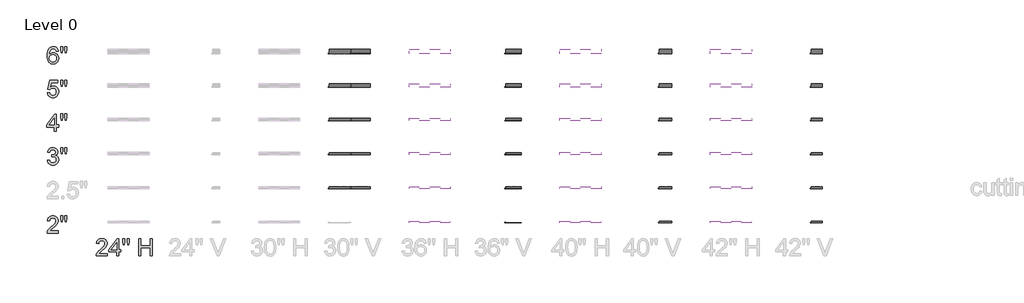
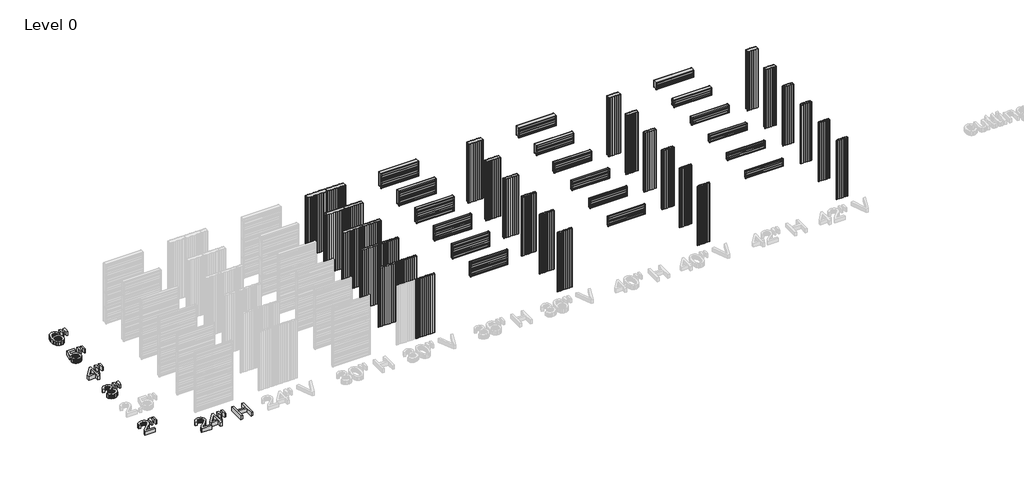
# One storey, part 2 of 5: 47 plates, 6 proxies.
"""IFC4 building model written with IfcOpenShell, lengths in millimetres."""

from ifc_helpers import new_model, si_unit, origin, origin_with_axes, place, context, project, spatial, polyline, outline, extrude, transform, mapped, element, save
from components import plate_de2fd6df, plate_e37267dc, plate_15712d7d, plate_4793d3af, plate_c5a37403, plate_57a42e4e, plate_0df7702d, plate_820d1cbb, plate_888f3173, plate_297fe0cb, plate_e7929396, plate_79ad022d, plate_239a66b7, plate_ced8370a, plate_4faf0529, plate_6111810e, plate_0e54a912, plate_5278eb09, plate_b1e30be2, plate_cf051cfc, plate_d5faf714, plate_00549aa1, plate_9e625256, plate_cb23bb6f, plate_c58314a5, plate_e7a07bd1, plate_d4053d72, plate_10c0e79f, plate_a5bf1575, plate_cdc928b4, plate_f7949c93, plate_2f6834ce, plate_00e9bba4, plate_165f95fd, plate_bf982a10, plate_b7fd3eda, plate_1283bab2, plate_a97a2569, plate_50034a83, plate_c56739d3, plate_0ff2a340, plate_49fefc4a, plate_28674070, plate_0aca0093, plate_5ca264da, plate_6d36e98c, plate_5aba35be, plate_f4e58c54, plate_e4049453, plate_e126f2b7, plate_ce7ed1db, plate_dabc4b1d, plate_28d0dd15, plate_f4efb7f9, plate_2dc741f4, plate_715b7b63, plate_04e56d12, plate_7e46fe94, plate_1a11cdb8

model = new_model("IFC4")

# Units and contexts
model_context = context("Model", 3, world=origin())
ifc_project = project(units=[si_unit("LENGTHUNIT", "METRE", prefix="MILLI")], contexts=[model_context])

# Site, building, storey
site = spatial("IfcSite", under=ifc_project)
building = spatial("IfcBuilding", under=site)
storey = spatial("IfcBuildingStorey", under=building, Name="Level 0", Elevation=0.0)

# Proxies
placement = place(None, origin())
element("IfcBuildingElementProxy", 1, Name="24\" Arial", ObjectType="24\" Arial", at=placement, inside=storey, context=model_context, shape_type="SweptSolid", body=[
    extrude(outline(polyline([(-32267.664642, 8108.881133), (-32267.664642, 8032.7393595), (-32667.408953, 8032.7393595), (-32665.735916, 8059.5451304), (-32659.2296609, 8085.2355432), (-32640.4544677, 8126.2621287), (-32612.9794821, 8166.0618204), (-32573.2355583, 8207.720442), (-32517.6535508, 8254.3238176), (-32435.488844, 8327.3054101), (-32386.1900199, 8381.177202), (-32371.8111963, 8403.1869334), (-32361.5406079, 8424.899236), (-32355.3782549, 8446.3141098), (-32353.3241372, 8467.4315548), (-32355.2620718, 8487.2988694), (-32361.0758754, 8505.5582095), (-32370.7655481, 8522.2095751), (-32384.3310899, 8537.2529662), (-32401.0196342, 8549.7124447), (-32420.0783142, 8558.6120722), (-32441.5071299, 8563.9518486), (-32465.3060815, 8565.7317741), (-32490.3784001, 8563.9936746), (-32512.8017434, 8558.7793759), (-32532.5761115, 8550.088878), (-32549.7015043, 8537.9221811), (-32563.5551802, 8522.6882496), (-32573.5143978, 8504.7960481), (-32579.579157, 8484.2455768), (-32581.7494578, 8461.0368355), (-32657.8912313, 8470.5545572), (-32651.3431503, 8509.8616324), (-32639.4320562, 8544.2053645), (-32622.157949, 8573.5857534), (-32599.5208288, 8598.0027992), (-32572.0411958, 8617.1962517), (-32540.2395505, 8630.9058605), (-32504.1158929, 8639.1316259), (-32463.6702231, 8641.8735476), (-32422.8620619, 8638.8249024), (-32386.5432167, 8629.6789667), (-32354.7136874, 8614.4357406), (-32327.3734742, 8593.095224), (-32305.4148634, 8567.2375074), (-32289.7301413, 8538.4426815), (-32280.3193081, 8506.7107461), (-32277.1823637, 8472.0417012), (-32280.5656164, 8435.6252622), (-32290.7153742, 8399.8408594), (-32308.7284061, 8363.4430096), (-32335.7014807, 8325.1862299), (-32378.698532, 8279.5123193), (-32444.7834941, 8220.8630773), (-32532.3762765, 8147.6212346), (-32566.7293032, 8108.881133), (-32267.664642, 8108.881133)])), origin_with_axes(), (0.0, 0.0, 1.0), 152.4),
    extrude(outline(polyline([(-32172.9335683, 8422.9659488), (-32191.5228685, 8540.5990403), (-32191.5228685, 8641.8735476), (-32115.381095, 8641.8735476), (-32115.381095, 8540.5990403), (-32132.037108, 8422.9659488), (-32172.9335683, 8422.9659488)])), origin_with_axes(), (0.0, 0.0, 1.0), 152.4),
    extrude(outline(polyline([(-32021.0961645, 8422.9659488), (-32039.2393215, 8540.5990403), (-32039.2393215, 8641.8735476), (-31963.097548, 8641.8735476), (-31963.097548, 8540.5990403), (-31980.9432761, 8422.9659488), (-32021.0961645, 8422.9659488)])), origin_with_axes(), (0.0, 0.0, 1.0), 152.4),
])
element("IfcBuildingElementProxy", 2, Name="24\" Arial", ObjectType="24\" Arial", at=placement, inside=storey, context=model_context, shape_type="SweptSolid", body=[
    extrude(outline(polyline([(-32657.8912313, 10607.5406282), (-32581.7494578, 10617.0583499), (-32564.7030695, 10569.2094913), (-32553.2102347, 10551.1128075), (-32539.7376394, 10536.9012876), (-32523.9785602, 10526.1659667), (-32505.6262736, 10518.4978804), (-32484.6807796, 10513.8970286), (-32461.1420783, 10512.3634113), (-32433.5555568, 10514.4732969), (-32408.9433234, 10520.8029536), (-32387.305378, 10531.3523815), (-32368.6417206, 10546.1215804), (-32353.6122714, 10564.0044872), (-32342.8769505, 10583.8950384), (-32336.435758, 10605.793234), (-32334.2886939, 10629.699074), (-32336.4171687, 10652.4663194), (-32342.8025933, 10673.1794471), (-32353.4449677, 10691.8384572), (-32368.3442918, 10708.4433496), (-32386.5246274, 10722.0739539), (-32407.0100361, 10731.8100999), (-32429.8005182, 10737.6517875), (-32454.8960734, 10739.5990167), (-32478.9506278, 10737.517015), (-32508.2845435, 10731.2710102), (-32499.8078226, 10807.4127837), (-32487.6132417, 10806.5204973), (-32441.9950991, 10811.9857515), (-32401.2101745, 10828.3815143), (-32384.4240364, 10840.7805775), (-32372.4339378, 10856.1167502), (-32365.2398787, 10874.3900322), (-32362.8418589, 10895.6004237), (-32364.5799585, 10912.818763), (-32369.7942572, 10928.4848957), (-32378.484755, 10942.5988219), (-32390.651452, 10955.1605415), (-32405.5600707, 10965.4729558), (-32422.4763339, 10972.838966), (-32441.4002415, 10977.2585721), (-32462.3317935, 10978.7317741), (-32483.2075776, 10977.2446301), (-32502.2616102, 10972.7831981), (-32519.4938915, 10965.347478), (-32534.9044213, 10954.9374699), (-32548.1121191, 10941.5531738), (-32558.7359042, 10925.1945896), (-32566.7757765, 10905.8617174), (-32572.2317361, 10883.5545572), (-32648.3735096, 10893.0722789), (-32639.3484044, 10929.4236554), (-32625.9548136, 10961.443725), (-32608.1927373, 10989.1324876), (-32586.0621754, 11012.4899432), (-32560.2602268, 11031.0327702), (-32531.4839901, 11044.2776465), (-32499.7334654, 11052.2245724), (-32465.0086527, 11054.8735476), (-32417.1412047, 11049.6499543), (-32373.1775098, 11033.9791742), (-32336.1104453, 11009.255405), (-32308.9328884, 10976.8728441), (-32292.2582862, 10939.5641186), (-32286.7000854, 10900.0618558), (-32291.9794467, 10863.2550414), (-32307.8175304, 10829.8686583), (-32333.9912651, 10801.427029), (-32370.277579, 10779.4544762), (-32344.9031843, 10771.5168451), (-32322.6146134, 10760.1959613), (-32303.4118663, 10745.4918248), (-32287.294943, 10727.4044358), (-32274.5426831, 10706.3799373), (-32265.433926, 10682.8644725), (-32259.9686718, 10656.8580416), (-32258.1469203, 10628.3606444), (-32261.7904232, 10589.7320787), (-32272.7209317, 10554.1521581), (-32290.9384459, 10521.6208828), (-32316.4429657, 10492.1382527), (-32347.5149809, 10467.6747337), (-32382.4349813, 10450.2007915), (-32421.2029668, 10439.7164262), (-32463.8189375, 10436.2216378), (-32502.3359674, 10439.2052205), (-32537.4325662, 10448.1559685), (-32569.1087337, 10463.0738819), (-32597.3644699, 10483.9589607), (-32621.056533, 10509.5843109), (-32639.0416809, 10538.723039), (-32651.3199137, 10571.3751447), (-32657.8912313, 10607.5406282)])), origin_with_axes(), (0.0, 0.0, 1.0), 152.4),
    extrude(outline(polyline([(-32172.9335683, 10835.9659488), (-32191.5228685, 10953.5990403), (-32191.5228685, 11054.8735476), (-32115.381095, 11054.8735476), (-32115.381095, 10953.5990403), (-32132.037108, 10835.9659488), (-32172.9335683, 10835.9659488)])), origin_with_axes(), (0.0, 0.0, 1.0), 152.4),
    extrude(outline(polyline([(-32021.0961645, 10835.9659488), (-32039.2393215, 10953.5990403), (-32039.2393215, 11054.8735476), (-31963.097548, 11054.8735476), (-31963.097548, 10953.5990403), (-31980.9432761, 10835.9659488), (-32021.0961645, 10835.9659488)])), origin_with_axes(), (0.0, 0.0, 1.0), 152.4),
])
element("IfcBuildingElementProxy", 3, Name="24\" Arial", ObjectType="24\" Arial", at=placement, inside=storey, context=model_context, shape_type="SweptSolid", body=[
    extrude(outline(polyline([(-32410.4304674, 11639.5393595), (-32410.4304674, 11782.3051848), (-32686.4443964, 11782.3051848), (-32686.4443964, 11858.4469584), (-32391.395024, 12239.1558259), (-32334.2886939, 12239.1558259), (-32334.2886939, 11858.4469584), (-32258.1469203, 11858.4469584), (-32258.1469203, 11782.3051848), (-32334.2886939, 11782.3051848), (-32334.2886939, 11639.5393595), (-32410.4304674, 11639.5393595)]), holes=[polyline([(-32410.4304674, 11858.4469584), (-32410.4304674, 12093.7131414), (-32592.7543235, 11858.4469584), (-32410.4304674, 11858.4469584)])]), origin_with_axes(), (0.0, 0.0, 1.0), 152.4),
    extrude(outline(polyline([(-32172.9335683, 12029.7659488), (-32191.5228685, 12147.3990403), (-32191.5228685, 12248.6735476), (-32115.381095, 12248.6735476), (-32115.381095, 12147.3990403), (-32132.037108, 12029.7659488), (-32172.9335683, 12029.7659488)])), origin_with_axes(), (0.0, 0.0, 1.0), 152.4),
    extrude(outline(polyline([(-32021.0961645, 12029.7659488), (-32039.2393215, 12147.3990403), (-32039.2393215, 12248.6735476), (-31963.097548, 12248.6735476), (-31963.097548, 12147.3990403), (-31980.9432761, 12029.7659488), (-32021.0961645, 12029.7659488)])), origin_with_axes(), (0.0, 0.0, 1.0), 152.4),
])
element("IfcBuildingElementProxy", 4, Name="24\" Arial", ObjectType="24\" Arial", at=placement, inside=storey, context=model_context, shape_type="SweptSolid", body=[
    extrude(outline(polyline([(-30531.9205653, 7302.1451481), (-30531.9205653, 7226.0033745), (-30931.6648763, 7226.0033745), (-30929.9918393, 7252.8091454), (-30923.4855842, 7278.4995582), (-30904.710391, 7319.5261437), (-30877.2354054, 7359.3258354), (-30837.4914816, 7400.9844571), (-30781.9094741, 7447.5878326), (-30699.7447673, 7520.5694251), (-30650.4459432, 7574.441217), (-30636.0671195, 7596.4509484), (-30625.7965312, 7618.163251), (-30619.6341782, 7639.5781248), (-30617.5800605, 7660.6955698), (-30619.5179951, 7680.5628844), (-30625.3317987, 7698.8222245), (-30635.0214714, 7715.4735901), (-30648.5870132, 7730.5169813), (-30665.2755574, 7742.9764597), (-30684.3342374, 7751.8760872), (-30705.7630532, 7757.2158637), (-30729.5620048, 7758.9957892), (-30754.6343234, 7757.2576896), (-30777.0576667, 7752.0433909), (-30796.8320348, 7743.3528931), (-30813.9574276, 7731.1861961), (-30827.8111035, 7715.9522646), (-30837.7703211, 7698.0600632), (-30843.8350803, 7677.5095918), (-30846.0053811, 7654.3008506), (-30922.1471546, 7663.8185723), (-30915.5990736, 7703.1256475), (-30903.6879795, 7737.4693796), (-30886.4138723, 7766.8497685), (-30863.776752, 7791.2668143), (-30836.297119, 7810.4602667), (-30804.4954738, 7824.1698756), (-30768.3718162, 7832.3956409), (-30727.9261464, 7835.1375627), (-30687.1179851, 7832.0889174), (-30650.7991399, 7822.9429818), (-30618.9696107, 7807.6997556), (-30591.6293975, 7786.359239), (-30569.6707866, 7760.5015225), (-30553.9860646, 7731.7066965), (-30544.5752314, 7699.9747611), (-30541.438287, 7665.3057163), (-30544.8215396, 7628.8892772), (-30554.9712975, 7593.1048744), (-30572.9843294, 7556.7070247), (-30599.9574039, 7518.4502449), (-30642.9544553, 7472.7763344), (-30709.0394174, 7414.1270923), (-30796.6321998, 7340.8852496), (-30830.9852265, 7302.1451481), (-30531.9205653, 7302.1451481)])), origin_with_axes(), (0.0, 0.0, 1.0), 152.4),
    extrude(outline(polyline([(-30208.3180279, 7226.0033745), (-30208.3180279, 7368.7691999), (-30484.3319569, 7368.7691999), (-30484.3319569, 7444.9109734), (-30189.2825845, 7825.619841), (-30132.1762543, 7825.619841), (-30132.1762543, 7444.9109734), (-30056.0344808, 7444.9109734), (-30056.0344808, 7368.7691999), (-30132.1762543, 7368.7691999), (-30132.1762543, 7226.0033745), (-30208.3180279, 7226.0033745)]), holes=[polyline([(-30208.3180279, 7444.9109734), (-30208.3180279, 7680.1771564), (-30390.641884, 7444.9109734), (-30208.3180279, 7444.9109734)])]), origin_with_axes(), (0.0, 0.0, 1.0), 152.4),
    extrude(outline(polyline([(-29970.8211288, 7616.2299638), (-29989.410429, 7733.8630553), (-29989.410429, 7835.1375627), (-29913.2686555, 7835.1375627), (-29913.2686555, 7733.8630553), (-29929.9246684, 7616.2299638), (-29970.8211288, 7616.2299638)])), origin_with_axes(), (0.0, 0.0, 1.0), 152.4),
    extrude(outline(polyline([(-29818.983725, 7616.2299638), (-29837.126882, 7733.8630553), (-29837.126882, 7835.1375627), (-29760.9851084, 7835.1375627), (-29760.9851084, 7733.8630553), (-29778.8308366, 7616.2299638), (-29818.983725, 7616.2299638)])), origin_with_axes(), (0.0, 0.0, 1.0), 152.4),
    extrude(outline(polyline([(-29418.3471276, 7226.0033745), (-29418.3471276, 7835.1375627), (-29342.2053541, 7835.1375627), (-29342.2053541, 7587.6767987), (-29018.6028167, 7587.6767987), (-29018.6028167, 7835.1375627), (-28942.4610431, 7835.1375627), (-28942.4610431, 7226.0033745), (-29018.6028167, 7226.0033745), (-29018.6028167, 7511.5350252), (-29342.2053541, 7511.5350252), (-29342.2053541, 7226.0033745), (-29418.3471276, 7226.0033745)])), origin_with_axes(), (0.0, 0.0, 1.0), 152.4),
])
element("IfcBuildingElementProxy", 5, Name="24\" Arial", ObjectType="24\" Arial", at=placement, inside=storey, context=model_context, shape_type="SweptSolid", body=[
    extrude(outline(polyline([(-32657.8912313, 12996.1406282), (-32581.7494578, 13005.6583499), (-32576.0611319, 12981.1808889), (-32567.7703041, 12959.9472608), (-32556.8769742, 12941.9574655), (-32543.3811422, 12927.2115032), (-32527.3106922, 12915.727963), (-32508.6935081, 12907.5254343), (-32487.5295899, 12902.6039171), (-32463.8189375, 12900.9634113), (-32434.8196292, 12903.2452479), (-32409.2407522, 12910.0907577), (-32387.0823064, 12921.4999407), (-32368.3442918, 12937.4727969), (-32353.4449677, 12957.219281), (-32342.8025933, 12979.9493478), (-32336.4171687, 13005.6629972), (-32334.2886939, 13034.3602294), (-32336.2823963, 13061.4820183), (-32342.2635036, 13085.5923407), (-32352.2320159, 13106.6911964), (-32366.187933, 13124.7785854), (-32384.1777282, 13139.2875342), (-32406.2478748, 13149.6510691), (-32432.3983729, 13155.86919), (-32462.6292223, 13157.9418969), (-32499.5661617, 13154.6330015), (-32529.4763457, 13144.7063152), (-32553.3635964, 13129.5002677), (-32572.2317361, 13110.3532885), (-32648.3735096, 13119.8710102), (-32581.7494578, 13433.9558259), (-32286.7000854, 13433.9558259), (-32286.7000854, 13357.8140524), (-32520.1816956, 13357.8140524), (-32552.7501495, 13190.0642076), (-32525.8793161, 13209.3227226), (-32498.3578572, 13223.0788048), (-32470.1857728, 13231.332454), (-32441.3630629, 13234.0836705), (-32404.2820563, 13230.6725339), (-32370.2218111, 13220.4391241), (-32339.1823271, 13203.3834412), (-32311.1636044, 13179.5054851), (-32287.9688051, 13150.264516), (-32271.4010914, 13117.1197938), (-32261.4604631, 13080.0713185), (-32258.1469203, 13039.1190902), (-32261.130503, 12999.6725953), (-32270.0812511, 12962.9773167), (-32284.9991644, 12929.0332546), (-32305.8842432, 12897.8404089), (-32337.5232321, 12865.8946965), (-32374.4415822, 12843.0763306), (-32416.6392936, 12829.385311), (-32464.1163663, 12824.8216378), (-32503.4094995, 12827.7540999), (-32538.9011209, 12836.5514862), (-32570.5912304, 12851.2137967), (-32598.4798279, 12871.7410315), (-32621.6839219, 12897.1107789), (-32639.3205204, 12926.3006275), (-32651.3896236, 12959.3105772), (-32657.8912313, 12996.1406282)])), origin_with_axes(), (0.0, 0.0, 1.0), 152.4),
    extrude(outline(polyline([(-32172.9335683, 13224.5659488), (-32191.5228685, 13342.1990403), (-32191.5228685, 13443.4735476), (-32115.381095, 13443.4735476), (-32115.381095, 13342.1990403), (-32132.037108, 13224.5659488), (-32172.9335683, 13224.5659488)])), origin_with_axes(), (0.0, 0.0, 1.0), 152.4),
    extrude(outline(polyline([(-32021.0961645, 13224.5659488), (-32039.2393215, 13342.1990403), (-32039.2393215, 13443.4735476), (-31963.097548, 13443.4735476), (-31963.097548, 13342.1990403), (-31980.9432761, 13224.5659488), (-32021.0961645, 13224.5659488)])), origin_with_axes(), (0.0, 0.0, 1.0), 152.4),
])
element("IfcBuildingElementProxy", 6, Name="24\" Arial", ObjectType="24\" Arial", at=placement, inside=storey, context=model_context, shape_type="SweptSolid", body=[
    extrude(outline(polyline([(-32267.664642, 14473.0707053), (-32343.8064155, 14463.5529837), (-32356.0753537, 14501.289263), (-32372.6570094, 14527.0540331), (-32389.0248882, 14540.9123563), (-32407.1959291, 14550.8111587), (-32427.1701322, 14556.7504401), (-32448.9474973, 14558.7302005), (-32484.3415249, 14554.1200541), (-32517.6535508, 14540.2896148), (-32546.2624838, 14511.1601814), (-32569.6292341, 14471.0630609), (-32578.7612278, 14445.4888312), (-32585.4115499, 14414.3471061), (-32591.2671795, 14335.3611696), (-32560.7249593, 14370.9968581), (-32524.1226272, 14396.1110026), (-32483.5050064, 14411.0010321), (-32440.9169197, 14415.9643752), (-32404.3331769, 14412.5718279), (-32370.5750078, 14402.3941861), (-32339.6424123, 14385.4314497), (-32311.5353904, 14361.6836187), (-32288.1779348, 14332.56348), (-32271.4940379, 14299.4838203), (-32261.4836997, 14262.4446397), (-32258.1469203, 14221.4459382), (-32259.7177162, 14193.6874657), (-32264.4301038, 14166.9235208), (-32272.2840831, 14141.1541034), (-32283.2796542, 14116.3792136), (-32297.0264417, 14093.523669), (-32313.1340703, 14073.5122874), (-32331.60254, 14056.3450687), (-32352.4318508, 14042.0220129), (-32375.1758596, 14030.7336604), (-32399.3884231, 14022.6705514), (-32425.0695413, 14017.832686), (-32452.2192142, 14016.2200642), (-32497.6096379, 14020.4956033), (-32538.6036921, 14033.3222204), (-32575.2013768, 14054.6999156), (-32607.402692, 14084.6286889), (-32633.6554312, 14124.3726127), (-32652.4073878, 14175.1957593), (-32663.6585617, 14237.0981289), (-32667.408953, 14310.0797214), (-32663.2449498, 14391.9005261), (-32650.75294, 14461.7312322), (-32629.9329238, 14519.5718397), (-32616.3999133, 14543.9958565), (-32600.7849012, 14565.4223486), (-32569.1923855, 14595.8065597), (-32532.5621695, 14617.5095677), (-32490.8942532, 14630.5313725), (-32444.1886365, 14634.8719741), (-32409.1199217, 14632.1858202), (-32377.3786917, 14624.1273586), (-32348.9649463, 14610.6965892), (-32323.8786858, 14591.8935121), (-32302.7984194, 14568.3501634), (-32286.4026566, 14540.6985794), (-32274.6913975, 14508.93876), (-32267.664642, 14473.0707053)]), holes=[polyline([(-32591.2671795, 14222.6356534), (-32586.8615153, 14188.8960736), (-32573.6445229, 14156.6808164), (-32553.1219355, 14128.9827591), (-32526.7994865, 14108.7947791), (-32495.0303725, 14096.4700731), (-32458.1677902, 14092.3618378), (-32431.7012741, 14094.4903126), (-32407.9209119, 14100.8757372), (-32386.8267035, 14111.5181116), (-32368.418649, 14126.4174357), (-32353.4867936, 14144.9695573), (-32342.8211826, 14166.5703241), (-32336.4218161, 14191.2197361), (-32334.2886939, 14218.9177933), (-32336.3939321, 14245.5330239), (-32342.7096468, 14269.1646717), (-32353.2358381, 14289.8127369), (-32367.9725058, 14307.4772194), (-32386.4363282, 14321.6283241), (-32408.1439835, 14331.7362561), (-32433.0954716, 14337.8010153), (-32461.2907927, 14339.8226017), (-32487.4041121, 14337.8010153), (-32511.4633138, 14331.7362561), (-32533.4683979, 14321.6283241), (-32553.4193643, 14307.4772194), (-32569.9777835, 14290.0451031), (-32581.8052257, 14270.0941367), (-32588.901691, 14247.6243201), (-32591.2671795, 14222.6356534)])]), origin_with_axes(), (0.0, 0.0, 1.0), 152.4),
    extrude(outline(polyline([(-32172.9335683, 14415.9643752), (-32191.5228685, 14533.5974667), (-32191.5228685, 14634.8719741), (-32115.381095, 14634.8719741), (-32115.381095, 14533.5974667), (-32132.037108, 14415.9643752), (-32172.9335683, 14415.9643752)])), origin_with_axes(), (0.0, 0.0, 1.0), 152.4),
    extrude(outline(polyline([(-32021.0961645, 14415.9643752), (-32039.2393215, 14533.5974667), (-32039.2393215, 14634.8719741), (-31963.097548, 14634.8719741), (-31963.097548, 14533.5974667), (-31980.9432761, 14415.9643752), (-32021.0961645, 14415.9643752)])), origin_with_axes(), (0.0, 0.0, 1.0), 152.4),
])

# Plates
plate_shape = plate_de2fd6df(model_context)
element("IfcPlate", 7, ObjectType="KIP-42-Karrier-KP-R19-CP-Hz-SL3-8in_SL : Hz 2\"", at=placement, inside=storey, context=model_context, shape_type="MappedRepresentation", body=[
    mapped(plate_shape, transform((-8448.7250935, 8444.8222907, 2133.6), x_axis=(1.0, 0.0, 0.0), y_axis=(0.0, 1.0, 0.0), z_axis=(0.0, 0.0, 1.0))),
])
plate_2_shape = plate_e37267dc(model_context)
element("IfcPlate", 8, ObjectType="KIP-40-Karrier-KP-R19-CP-Hz-SL3-8in_SL : Hz 2\"", at=placement, inside=storey, context=model_context, shape_type="MappedRepresentation", body=[
    mapped(plate_2_shape, transform((-13782.7250935, 8444.8222907, 2032.0), x_axis=(1.0, 0.0, 0.0), y_axis=(0.0, 1.0, 0.0), z_axis=(0.0, 0.0, 1.0))),
])
plate_3_shape = plate_15712d7d(model_context)
element("IfcPlate", 9, ObjectType="KIP-36-Karrier-KP-R19-CP-Hz-SL3-8in_SL : Hz 2\"", at=placement, inside=storey, context=model_context, shape_type="MappedRepresentation", body=[
    mapped(plate_3_shape, transform((-19116.7250935, 8444.8222907, 1828.8), x_axis=(1.0, 0.0, 0.0), y_axis=(0.0, 1.0, 0.0), z_axis=(0.0, 0.0, 1.0))),
])
plate_4_shape = plate_4793d3af(model_context)
element("IfcPlate", 10, ObjectType="KIP-42-Karrier-KP-R19-CP-Hz-SL3-8in_SL : Hz 2.5\"", at=placement, inside=storey, context=model_context, shape_type="MappedRepresentation", body=[
    mapped(plate_4_shape, transform((-8448.7250935, 9664.0222907, 2133.6), x_axis=(1.0, 0.0, 0.0), y_axis=(0.0, 1.0, 0.0), z_axis=(0.0, 0.0, 1.0))),
])
plate_5_shape = plate_c5a37403(model_context)
element("IfcPlate", 11, ObjectType="KIP-40-Karrier-KP-R19-CP-Hz-SL3-8in_SL : Hz 2.5\"", at=placement, inside=storey, context=model_context, shape_type="MappedRepresentation", body=[
    mapped(plate_5_shape, transform((-13782.7250935, 9664.0222907, 2032.0), x_axis=(1.0, 0.0, 0.0), y_axis=(0.0, 1.0, 0.0), z_axis=(0.0, 0.0, 1.0))),
])
plate_6_shape = plate_57a42e4e(model_context)
element("IfcPlate", 12, ObjectType="KIP-36-Karrier-KP-R19-CP-Hz-SL3-8in_SL : Hz 2.5\"", at=placement, inside=storey, context=model_context, shape_type="MappedRepresentation", body=[
    mapped(plate_6_shape, transform((-19116.7250935, 9664.0222907, 1828.8), x_axis=(1.0, 0.0, 0.0), y_axis=(0.0, 1.0, 0.0), z_axis=(0.0, 0.0, 1.0))),
])
plate_7_shape = plate_0df7702d(model_context)
element("IfcPlate", 13, ObjectType="KIP-42-Karrier-KP-R19-CP-Hz-SL3-8in_SL : Hz 3\"", at=placement, inside=storey, context=model_context, shape_type="MappedRepresentation", body=[
    mapped(plate_7_shape, transform((-8448.7250935, 10883.2222907, 2133.6), x_axis=(1.0, 0.0, 0.0), y_axis=(0.0, 1.0, 0.0), z_axis=(0.0, 0.0, 1.0))),
])
plate_8_shape = plate_820d1cbb(model_context)
element("IfcPlate", 14, ObjectType="KIP-40-Karrier-KP-R19-CP-Hz-SL3-8in_SL : Hz 3\"", at=placement, inside=storey, context=model_context, shape_type="MappedRepresentation", body=[
    mapped(plate_8_shape, transform((-13782.7250935, 10883.2222907, 2032.0), x_axis=(1.0, 0.0, 0.0), y_axis=(0.0, 1.0, 0.0), z_axis=(0.0, 0.0, 1.0))),
])
plate_9_shape = plate_888f3173(model_context)
element("IfcPlate", 15, ObjectType="KIP-36-Karrier-KP-R19-CP-Hz-SL3-8in_SL : Hz 3\"", at=placement, inside=storey, context=model_context, shape_type="MappedRepresentation", body=[
    mapped(plate_9_shape, transform((-19116.7250935, 10883.2222907, 1828.8), x_axis=(1.0, 0.0, 0.0), y_axis=(0.0, 1.0, 0.0), z_axis=(0.0, 0.0, 1.0))),
])
plate_10_shape = plate_297fe0cb(model_context)
element("IfcPlate", 16, ObjectType="KIP-42-Karrier-KP-R19-CP-Hz-SL3-8in_SL : Hz 4\"", at=placement, inside=storey, context=model_context, shape_type="MappedRepresentation", body=[
    mapped(plate_10_shape, transform((-8448.7250935, 12102.4222907, 2133.6), x_axis=(1.0, 0.0, 0.0), y_axis=(0.0, 1.0, 0.0), z_axis=(0.0, 0.0, 1.0))),
])
plate_11_shape = plate_e7929396(model_context)
element("IfcPlate", 17, ObjectType="KIP-40-Karrier-KP-R19-CP-Hz-SL3-8in_SL : Hz 4\"", at=placement, inside=storey, context=model_context, shape_type="MappedRepresentation", body=[
    mapped(plate_11_shape, transform((-13782.7250935, 12102.4222907, 2032.0), x_axis=(1.0, 0.0, 0.0), y_axis=(0.0, 1.0, 0.0), z_axis=(0.0, 0.0, 1.0))),
])
plate_12_shape = plate_79ad022d(model_context)
element("IfcPlate", 18, ObjectType="KIP-36-Karrier-KP-R19-CP-Hz-SL3-8in_SL : Hz 4\"", at=placement, inside=storey, context=model_context, shape_type="MappedRepresentation", body=[
    mapped(plate_12_shape, transform((-19116.7250935, 12102.4222907, 1828.8), x_axis=(1.0, 0.0, 0.0), y_axis=(0.0, 1.0, 0.0), z_axis=(0.0, 0.0, 1.0))),
])
plate_13_shape = plate_239a66b7(model_context)
element("IfcPlate", 19, ObjectType="KIP-42-Karrier-KP-R19-CP-Hz-SL3-8in_SL : Hz 5\"", at=placement, inside=storey, context=model_context, shape_type="MappedRepresentation", body=[
    mapped(plate_13_shape, transform((-8448.7250935, 13321.6222907, 2133.6), x_axis=(1.0, 0.0, 0.0), y_axis=(0.0, 1.0, 0.0), z_axis=(0.0, 0.0, 1.0))),
])
plate_14_shape = plate_ced8370a(model_context)
element("IfcPlate", 20, ObjectType="KIP-40-Karrier-KP-R19-CP-Hz-SL3-8in_SL : Hz 5\"", at=placement, inside=storey, context=model_context, shape_type="MappedRepresentation", body=[
    mapped(plate_14_shape, transform((-13782.7250935, 13321.6222907, 2032.0), x_axis=(1.0, 0.0, 0.0), y_axis=(0.0, 1.0, 0.0), z_axis=(0.0, 0.0, 1.0))),
])
plate_15_shape = plate_4faf0529(model_context)
element("IfcPlate", 21, ObjectType="KIP-36-Karrier-KP-R19-CP-Hz-SL3-8in_SL : Hz 5\"", at=placement, inside=storey, context=model_context, shape_type="MappedRepresentation", body=[
    mapped(plate_15_shape, transform((-19116.7250935, 13321.6222907, 1828.8), x_axis=(1.0, 0.0, 0.0), y_axis=(0.0, 1.0, 0.0), z_axis=(0.0, 0.0, 1.0))),
])
plate_16_shape = plate_6111810e(model_context)
element("IfcPlate", 22, ObjectType="KIP-42-Karrier-KP-R19-CP-Hz-SL3-8in_SL : Hz 6\"", at=placement, inside=storey, context=model_context, shape_type="MappedRepresentation", body=[
    mapped(plate_16_shape, transform((-8448.7250935, 14539.4207172, 2133.6), x_axis=(1.0, 0.0, 0.0), y_axis=(0.0, 1.0, 0.0), z_axis=(0.0, 0.0, 1.0))),
])
plate_17_shape = plate_0e54a912(model_context)
element("IfcPlate", 23, ObjectType="KIP-40-Karrier-KP-R19-CP-Hz-SL3-8in_SL : Hz 6\"", at=placement, inside=storey, context=model_context, shape_type="MappedRepresentation", body=[
    mapped(plate_17_shape, transform((-13782.7250935, 14539.4207172, 2032.0), x_axis=(1.0, 0.0, 0.0), y_axis=(0.0, 1.0, 0.0), z_axis=(0.0, 0.0, 1.0))),
])
plate_18_shape = plate_5278eb09(model_context)
element("IfcPlate", 24, ObjectType="KIP-36-Karrier-KP-R19-CP-Hz-SL3-8in_SL : Hz 6\"", at=placement, inside=storey, context=model_context, shape_type="MappedRepresentation", body=[
    mapped(plate_18_shape, transform((-19116.7250935, 14539.4207172, 1828.8), x_axis=(1.0, 0.0, 0.0), y_axis=(0.0, 1.0, 0.0), z_axis=(0.0, 0.0, 1.0))),
])
plate_19_shape = plate_b1e30be2(model_context)
element("IfcPlate", 25, ObjectType="KIP-42-Karrier-KP-R19-CP-Vt-SL3-8in_SL : Vt 2\"", at=placement, inside=storey, context=model_context, shape_type="MappedRepresentation", body=[
    mapped(plate_19_shape, transform((-5415.5413834, 8443.4207172, 0.0), x_axis=(1.0, 0.0, 0.0), y_axis=(0.0, 1.0, 0.0), z_axis=(0.0, 0.0, 1.0))),
])
plate_20_shape = plate_cf051cfc(model_context)
element("IfcPlate", 26, ObjectType="KIP-40-Karrier-KP-R19-CP-Vt-SL3-8in_SL : Vt 2\"", at=placement, inside=storey, context=model_context, shape_type="MappedRepresentation", body=[
    mapped(plate_20_shape, transform((-10774.9413834, 8443.4207172, 0.0), x_axis=(1.0, 0.0, 0.0), y_axis=(0.0, 1.0, 0.0), z_axis=(0.0, 0.0, 1.0))),
])
plate_21_shape = plate_d5faf714(model_context)
element("IfcPlate", 27, ObjectType="KIP-36-Karrier-KP-R19-CP-Vt-SL3-8in_SL : Vt 2\"", at=placement, inside=storey, context=model_context, shape_type="MappedRepresentation", body=[
    mapped(plate_21_shape, transform((-16159.7413834, 8443.4207172, 0.0), x_axis=(1.0, 0.0, 0.0), y_axis=(0.0, 1.0, 0.0), z_axis=(0.0, 0.0, 1.0))),
])
plate_22_shape = plate_00549aa1(model_context)
plate_23_shape = plate_9e625256(model_context)
element("IfcPlate", 28, ObjectType="KIP-30-Karrier-KP-R19-CP-Vt-SL_SL : Vt 2\"", at=placement, inside=storey, context=model_context, shape_type="MappedRepresentation", body=[
    mapped(plate_22_shape, transform((-21569.9413834, 8443.4207172, 0.0), x_axis=(1.0, 0.0, 0.0), y_axis=(0.0, 1.0, 0.0), z_axis=(0.0, 0.0, 1.0))),
    mapped(plate_23_shape, transform((-21569.9413834, 8443.4207172, 0.0), x_axis=(1.0, 0.0, 0.0), y_axis=(0.0, 1.0, 0.0), z_axis=(0.0, 0.0, 1.0))),
])
plate_24_shape = plate_cb23bb6f(model_context)
element("IfcPlate", 29, ObjectType="KIP-42-Karrier-KP-R19-CP-Vt-SL3-8in_SL : Vt 2.5\"", at=placement, inside=storey, context=model_context, shape_type="MappedRepresentation", body=[
    mapped(plate_24_shape, transform((-5415.5413834, 9662.6207172, 0.0), x_axis=(1.0, 0.0, 0.0), y_axis=(0.0, 1.0, 0.0), z_axis=(0.0, 0.0, 1.0))),
])
plate_25_shape = plate_c58314a5(model_context)
element("IfcPlate", 30, ObjectType="KIP-40-Karrier-KP-R19-CP-Vt-SL3-8in_SL : Vt 2.5\"", at=placement, inside=storey, context=model_context, shape_type="MappedRepresentation", body=[
    mapped(plate_25_shape, transform((-10774.9413834, 9662.6207172, 0.0), x_axis=(1.0, 0.0, 0.0), y_axis=(0.0, 1.0, 0.0), z_axis=(0.0, 0.0, 1.0))),
])
plate_26_shape = plate_e7a07bd1(model_context)
element("IfcPlate", 31, ObjectType="KIP-36-Karrier-KP-R19-CP-Vt-SL3-8in_SL : Vt 2.5\"", at=placement, inside=storey, context=model_context, shape_type="MappedRepresentation", body=[
    mapped(plate_26_shape, transform((-16159.7413834, 9662.6207172, 0.0), x_axis=(1.0, 0.0, 0.0), y_axis=(0.0, 1.0, 0.0), z_axis=(0.0, 0.0, 1.0))),
])
plate_27_shape = plate_d4053d72(model_context)
plate_28_shape = plate_10c0e79f(model_context)
plate_29_shape = plate_a5bf1575(model_context)
element("IfcPlate", 32, ObjectType="KIP-30-Karrier-KP-R19-CP-Vt-SL_SL : Vt 2.5\"", at=placement, inside=storey, context=model_context, shape_type="MappedRepresentation", body=[
    mapped(plate_27_shape, transform((-22299.9413834, 9662.6207172, 0.0), x_axis=(1.0, 0.0, 0.0), y_axis=(0.0, 1.0, 0.0), z_axis=(0.0, 0.0, 1.0))),
    mapped(plate_28_shape, transform((-22299.9413834, 9662.6207172, 0.0), x_axis=(1.0, 0.0, 0.0), y_axis=(0.0, 1.0, 0.0), z_axis=(0.0, 0.0, 1.0))),
    mapped(plate_29_shape, transform((-22299.9413834, 9662.6207172, 0.0), x_axis=(1.0, 0.0, 0.0), y_axis=(0.0, 1.0, 0.0), z_axis=(0.0, 0.0, 1.0))),
])
plate_30_shape = plate_cdc928b4(model_context)
plate_31_shape = plate_f7949c93(model_context)
element("IfcPlate", 33, ObjectType="KIP-30-Karrier-KP-R19-CP-Vt-SL_SL : Vt 2.5\"", at=placement, inside=storey, context=model_context, shape_type="MappedRepresentation", body=[
    mapped(plate_30_shape, transform((-21569.9413834, 9662.6207172, 0.0), x_axis=(1.0, 0.0, 0.0), y_axis=(0.0, 1.0, 0.0), z_axis=(0.0, 0.0, 1.0))),
    mapped(plate_31_shape, transform((-21569.9413834, 9662.6207172, 0.0), x_axis=(1.0, 0.0, 0.0), y_axis=(0.0, 1.0, 0.0), z_axis=(0.0, 0.0, 1.0))),
])
plate_32_shape = plate_2f6834ce(model_context)
element("IfcPlate", 34, ObjectType="KIP-42-Karrier-KP-R19-CP-Vt-SL3-8in_SL : Vt 3\"", at=placement, inside=storey, context=model_context, shape_type="MappedRepresentation", body=[
    mapped(plate_32_shape, transform((-5415.5413834, 10881.8207172, 0.0), x_axis=(1.0, 0.0, 0.0), y_axis=(0.0, 1.0, 0.0), z_axis=(0.0, 0.0, 1.0))),
])
plate_33_shape = plate_00e9bba4(model_context)
element("IfcPlate", 35, ObjectType="KIP-40-Karrier-KP-R19-CP-Vt-SL3-8in_SL : Vt 3\"", at=placement, inside=storey, context=model_context, shape_type="MappedRepresentation", body=[
    mapped(plate_33_shape, transform((-10774.9413834, 10881.8207172, 0.0), x_axis=(1.0, 0.0, 0.0), y_axis=(0.0, 1.0, 0.0), z_axis=(0.0, 0.0, 1.0))),
])
plate_34_shape = plate_165f95fd(model_context)
element("IfcPlate", 36, ObjectType="KIP-36-Karrier-KP-R19-CP-Vt-SL3-8in_SL : Vt 3\"", at=placement, inside=storey, context=model_context, shape_type="MappedRepresentation", body=[
    mapped(plate_34_shape, transform((-16159.7413834, 10881.8207172, 0.0), x_axis=(1.0, 0.0, 0.0), y_axis=(0.0, 1.0, 0.0), z_axis=(0.0, 0.0, 1.0))),
])
plate_35_shape = plate_bf982a10(model_context)
plate_36_shape = plate_b7fd3eda(model_context)
element("IfcPlate", 37, ObjectType="KIP-30-Karrier-KP-R19-CP-Vt-SL_SL : Vt 3\"", at=placement, inside=storey, context=model_context, shape_type="MappedRepresentation", body=[
    mapped(plate_35_shape, transform((-22299.9413834, 10881.8207172, 0.0), x_axis=(1.0, 0.0, 0.0), y_axis=(0.0, 1.0, 0.0), z_axis=(0.0, 0.0, 1.0))),
    mapped(plate_28_shape, transform((-22299.9413834, 10881.8207172, 0.0), x_axis=(1.0, 0.0, 0.0), y_axis=(0.0, 1.0, 0.0), z_axis=(0.0, 0.0, 1.0))),
    mapped(plate_36_shape, transform((-22299.9413834, 10881.8207172, 0.0), x_axis=(1.0, 0.0, 0.0), y_axis=(0.0, 1.0, 0.0), z_axis=(0.0, 0.0, 1.0))),
])
plate_37_shape = plate_1283bab2(model_context)
plate_38_shape = plate_a97a2569(model_context)
element("IfcPlate", 38, ObjectType="KIP-30-Karrier-KP-R19-CP-Vt-SL_SL : Vt 3\"", at=placement, inside=storey, context=model_context, shape_type="MappedRepresentation", body=[
    mapped(plate_37_shape, transform((-21569.9413834, 10881.8207172, 0.0), x_axis=(1.0, 0.0, 0.0), y_axis=(0.0, 1.0, 0.0), z_axis=(0.0, 0.0, 1.0))),
    mapped(plate_38_shape, transform((-21569.9413834, 10881.8207172, 0.0), x_axis=(1.0, 0.0, 0.0), y_axis=(0.0, 1.0, 0.0), z_axis=(0.0, 0.0, 1.0))),
])
plate_39_shape = plate_50034a83(model_context)
element("IfcPlate", 39, ObjectType="KIP-42-Karrier-KP-R19-CP-Vt-SL3-8in_SL : Vt 4\"", at=placement, inside=storey, context=model_context, shape_type="MappedRepresentation", body=[
    mapped(plate_39_shape, transform((-5415.5413834, 12101.0207172, 0.0), x_axis=(1.0, 0.0, 0.0), y_axis=(0.0, 1.0, 0.0), z_axis=(0.0, 0.0, 1.0))),
])
plate_40_shape = plate_c56739d3(model_context)
element("IfcPlate", 40, ObjectType="KIP-40-Karrier-KP-R19-CP-Vt-SL3-8in_SL : Vt 4\"", at=placement, inside=storey, context=model_context, shape_type="MappedRepresentation", body=[
    mapped(plate_40_shape, transform((-10774.9413834, 12101.0207172, 0.0), x_axis=(1.0, 0.0, 0.0), y_axis=(0.0, 1.0, 0.0), z_axis=(0.0, 0.0, 1.0))),
])
plate_41_shape = plate_0ff2a340(model_context)
element("IfcPlate", 41, ObjectType="KIP-36-Karrier-KP-R19-CP-Vt-SL3-8in_SL : Vt 4\"", at=placement, inside=storey, context=model_context, shape_type="MappedRepresentation", body=[
    mapped(plate_41_shape, transform((-16159.7413834, 12101.0207172, 0.0), x_axis=(1.0, 0.0, 0.0), y_axis=(0.0, 1.0, 0.0), z_axis=(0.0, 0.0, 1.0))),
])
plate_42_shape = plate_49fefc4a(model_context)
plate_43_shape = plate_28674070(model_context)
element("IfcPlate", 42, ObjectType="KIP-30-Karrier-KP-R19-CP-Vt-SL_SL : Vt 4\"", at=placement, inside=storey, context=model_context, shape_type="MappedRepresentation", body=[
    mapped(plate_42_shape, transform((-22299.9413834, 12101.0207172, 0.0), x_axis=(1.0, 0.0, 0.0), y_axis=(0.0, 1.0, 0.0), z_axis=(0.0, 0.0, 1.0))),
    mapped(plate_28_shape, transform((-22299.9413834, 12101.0207172, 0.0), x_axis=(1.0, 0.0, 0.0), y_axis=(0.0, 1.0, 0.0), z_axis=(0.0, 0.0, 1.0))),
    mapped(plate_43_shape, transform((-22299.9413834, 12101.0207172, 0.0), x_axis=(1.0, 0.0, 0.0), y_axis=(0.0, 1.0, 0.0), z_axis=(0.0, 0.0, 1.0))),
])
plate_44_shape = plate_0aca0093(model_context)
plate_45_shape = plate_5ca264da(model_context)
element("IfcPlate", 43, ObjectType="KIP-30-Karrier-KP-R19-CP-Vt-SL_SL : Vt 4\"", at=placement, inside=storey, context=model_context, shape_type="MappedRepresentation", body=[
    mapped(plate_44_shape, transform((-21569.9413834, 12101.0207172, 0.0), x_axis=(1.0, 0.0, 0.0), y_axis=(0.0, 1.0, 0.0), z_axis=(0.0, 0.0, 1.0))),
    mapped(plate_45_shape, transform((-21569.9413834, 12101.0207172, 0.0), x_axis=(1.0, 0.0, 0.0), y_axis=(0.0, 1.0, 0.0), z_axis=(0.0, 0.0, 1.0))),
])
plate_46_shape = plate_6d36e98c(model_context)
element("IfcPlate", 44, ObjectType="KIP-42-Karrier-KP-R19-CP-Vt-SL3-8in_SL : Vt 5\"", at=placement, inside=storey, context=model_context, shape_type="MappedRepresentation", body=[
    mapped(plate_46_shape, transform((-5415.5413834, 13320.2207172, 0.0), x_axis=(1.0, 0.0, 0.0), y_axis=(0.0, 1.0, 0.0), z_axis=(0.0, 0.0, 1.0))),
])
plate_47_shape = plate_5aba35be(model_context)
element("IfcPlate", 45, ObjectType="KIP-40-Karrier-KP-R19-CP-Vt-SL3-8in_SL : Vt 5\"", at=placement, inside=storey, context=model_context, shape_type="MappedRepresentation", body=[
    mapped(plate_47_shape, transform((-10774.9413834, 13320.2207172, 0.0), x_axis=(1.0, 0.0, 0.0), y_axis=(0.0, 1.0, 0.0), z_axis=(0.0, 0.0, 1.0))),
])
plate_48_shape = plate_f4e58c54(model_context)
element("IfcPlate", 46, ObjectType="KIP-36-Karrier-KP-R19-CP-Vt-SL3-8in_SL : Vt 5\"", at=placement, inside=storey, context=model_context, shape_type="MappedRepresentation", body=[
    mapped(plate_48_shape, transform((-16159.7413834, 13320.2207172, 0.0), x_axis=(1.0, 0.0, 0.0), y_axis=(0.0, 1.0, 0.0), z_axis=(0.0, 0.0, 1.0))),
])
plate_49_shape = plate_e4049453(model_context)
plate_50_shape = plate_e126f2b7(model_context)
element("IfcPlate", 47, ObjectType="KIP-30-Karrier-KP-R19-CP-Vt-SL_SL : Vt 5\"", at=placement, inside=storey, context=model_context, shape_type="MappedRepresentation", body=[
    mapped(plate_49_shape, transform((-22299.9413834, 13320.2207172, 0.0), x_axis=(1.0, 0.0, 0.0), y_axis=(0.0, 1.0, 0.0), z_axis=(0.0, 0.0, 1.0))),
    mapped(plate_28_shape, transform((-22299.9413834, 13320.2207172, 0.0), x_axis=(1.0, 0.0, 0.0), y_axis=(0.0, 1.0, 0.0), z_axis=(0.0, 0.0, 1.0))),
    mapped(plate_50_shape, transform((-22299.9413834, 13320.2207172, 0.0), x_axis=(1.0, 0.0, 0.0), y_axis=(0.0, 1.0, 0.0), z_axis=(0.0, 0.0, 1.0))),
])
plate_51_shape = plate_ce7ed1db(model_context)
plate_52_shape = plate_dabc4b1d(model_context)
element("IfcPlate", 48, ObjectType="KIP-30-Karrier-KP-R19-CP-Vt-SL_SL : Vt 5\"", at=placement, inside=storey, context=model_context, shape_type="MappedRepresentation", body=[
    mapped(plate_51_shape, transform((-21569.9413834, 13320.2207172, 0.0), x_axis=(1.0, 0.0, 0.0), y_axis=(0.0, 1.0, 0.0), z_axis=(0.0, 0.0, 1.0))),
    mapped(plate_52_shape, transform((-21569.9413834, 13320.2207172, 0.0), x_axis=(1.0, 0.0, 0.0), y_axis=(0.0, 1.0, 0.0), z_axis=(0.0, 0.0, 1.0))),
])
plate_53_shape = plate_28d0dd15(model_context)
element("IfcPlate", 49, ObjectType="KIP-42-Karrier-KP-R19-CP-Vt-SL3-8in_SL : Vt 6\"", at=placement, inside=storey, context=model_context, shape_type="MappedRepresentation", body=[
    mapped(plate_53_shape, transform((-5415.5413834, 14539.4207172, 0.0), x_axis=(1.0, 0.0, 0.0), y_axis=(0.0, 1.0, 0.0), z_axis=(0.0, 0.0, 1.0))),
])
plate_54_shape = plate_f4efb7f9(model_context)
element("IfcPlate", 50, ObjectType="KIP-40-Karrier-KP-R19-CP-Vt-SL3-8in_SL : Vt 6\"", at=placement, inside=storey, context=model_context, shape_type="MappedRepresentation", body=[
    mapped(plate_54_shape, transform((-10774.9413834, 14539.4207172, 0.0), x_axis=(1.0, 0.0, 0.0), y_axis=(0.0, 1.0, 0.0), z_axis=(0.0, 0.0, 1.0))),
])
plate_55_shape = plate_2dc741f4(model_context)
element("IfcPlate", 51, ObjectType="KIP-36-Karrier-KP-R19-CP-Vt-SL3-8in_SL : Vt 6\"", at=placement, inside=storey, context=model_context, shape_type="MappedRepresentation", body=[
    mapped(plate_55_shape, transform((-16159.7413834, 14539.4207172, 0.0), x_axis=(1.0, 0.0, 0.0), y_axis=(0.0, 1.0, 0.0), z_axis=(0.0, 0.0, 1.0))),
])
plate_56_shape = plate_715b7b63(model_context)
plate_57_shape = plate_04e56d12(model_context)
element("IfcPlate", 52, ObjectType="KIP-30-Karrier-KP-R19-CP-Vt-SL_SL : Vt 6\"", at=placement, inside=storey, context=model_context, shape_type="MappedRepresentation", body=[
    mapped(plate_56_shape, transform((-22299.9413834, 14539.4207172, 0.0), x_axis=(1.0, 0.0, 0.0), y_axis=(0.0, 1.0, 0.0), z_axis=(0.0, 0.0, 1.0))),
    mapped(plate_28_shape, transform((-22299.9413834, 14539.4207172, 0.0), x_axis=(1.0, 0.0, 0.0), y_axis=(0.0, 1.0, 0.0), z_axis=(0.0, 0.0, 1.0))),
    mapped(plate_57_shape, transform((-22299.9413834, 14539.4207172, 0.0), x_axis=(1.0, 0.0, 0.0), y_axis=(0.0, 1.0, 0.0), z_axis=(0.0, 0.0, 1.0))),
])
plate_58_shape = plate_7e46fe94(model_context)
plate_59_shape = plate_1a11cdb8(model_context)
element("IfcPlate", 53, ObjectType="KIP-30-Karrier-KP-R19-CP-Vt-SL_SL : Vt 6\"", at=placement, inside=storey, context=model_context, shape_type="MappedRepresentation", body=[
    mapped(plate_58_shape, transform((-21569.9413834, 14539.4207172, 0.0), x_axis=(1.0, 0.0, 0.0), y_axis=(0.0, 1.0, 0.0), z_axis=(0.0, 0.0, 1.0))),
    mapped(plate_59_shape, transform((-21569.9413834, 14539.4207172, 0.0), x_axis=(1.0, 0.0, 0.0), y_axis=(0.0, 1.0, 0.0), z_axis=(0.0, 0.0, 1.0))),
])

save(model, "model.ifc")
